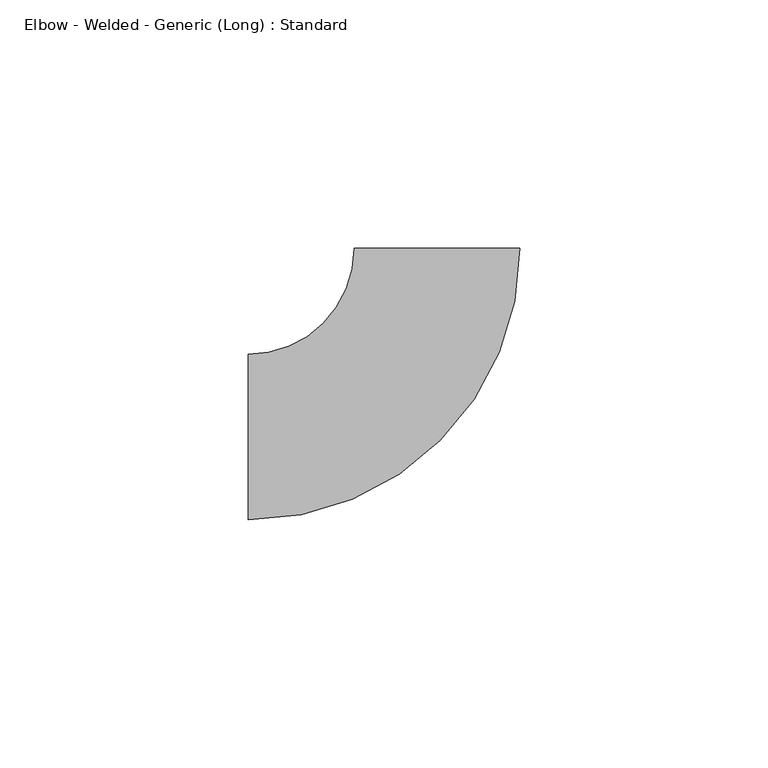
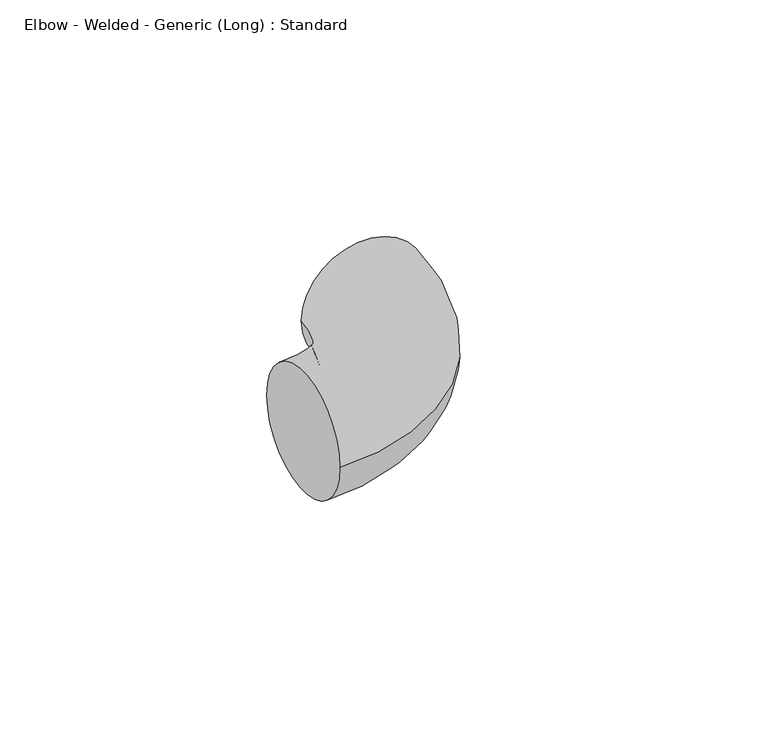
"""IFC4 building model written with IfcOpenShell, lengths in millimetres: pipe fitting geometry, Elbow - Welded - Generic (Long) : Standard."""

from ifc_helpers import new_model, si_unit, point, frame, origin, place, context, project, spatial, circle_curve, ellipse_curve, trimmed, source, transform, mapped, element, save
from ifc_brep_helpers import plane_surface, revolved_surface, advanced_brep


def elbow_welded_generic_long_standard_c526c2e9(model_context):
    return source(origin(), model_context, "Body", "AdvancedBrep", [
        advanced_brep(
        [(-38.1, -16.66875, 0.0), (-38.1, 16.66875, 0.0), (16.6629032, 38.1025574, 0.0), (-16.6745964, 38.0974417, 0.0)],
        [
            (0, 1, circle_curve(frame((-38.1, 0.0, 0.0), z_axis=(-1.0, 0.0, 0.0), x_axis=(0.0, 1.0, 0.0)), 16.66875)),
            (1, 0, circle_curve(frame((-38.1, 0.0, 0.0), z_axis=(-1.0, 0.0, 0.0), x_axis=(0.0, 1.0, 0.0)), 16.66875)),
            (2, 3, circle_curve(frame((-0.0058466, 38.0999996, 0.0), z_axis=(-0.00015345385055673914, 0.9999999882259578, 0.0), x_axis=(-0.9999999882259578, -0.00015345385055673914, 0.0)), 16.66875)),
            (3, 2, circle_curve(frame((-0.0058466, 38.0999996, 0.0), z_axis=(-0.00015345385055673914, 0.9999999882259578, 0.0), x_axis=(-0.9999999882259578, -0.00015345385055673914, 0.0)), 16.66875)),
            (3, 1, circle_curve(frame((-38.1, 38.0941539, 0.0), z_axis=(0.0, 0.0, -1.0), x_axis=(0.0, -1.0, 0.0)), 21.4254039)),
            (0, 2, circle_curve(frame((-38.1, 38.0941539, 0.0), z_axis=(0.0, 0.0, 1.0), x_axis=(0.0, -1.0, 0.0)), 54.7629039)),
        ],
        [
            plane_surface(frame((-38.1, 0.0, 0.0), z_axis=(-1.0, 0.0, 0.0), x_axis=(0.0, 0.0, 1.0))),
            plane_surface(frame((-0.0058466, 38.0999996, 0.0), z_axis=(-0.00015345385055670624, 0.9999999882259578, 0.0), x_axis=(0.0, 0.0, 1.0))),
            revolved_surface(trimmed(ellipse_curve(frame((-38.1, 0.0, 0.0), z_axis=(-1.0, 0.0, 0.0), x_axis=(0.0, 1.0, 0.0)), 16.66875, 16.66875), [point((-38.1, -16.66875, 0.0))], [point((-38.1, 16.66875, 0.0))], True, "CARTESIAN"), (-38.1, 38.0941539, 0.0), (0.0, 0.0, 1.0)),
            revolved_surface(trimmed(ellipse_curve(frame((-38.1, 0.0, 0.0), z_axis=(-1.0, 0.0, 0.0), x_axis=(0.0, 1.0, 0.0)), 16.66875, 16.66875), [point((-38.1, 16.66875, 0.0))], [point((-38.1, -16.66875, 0.0))], True, "CARTESIAN"), (-38.1, 38.0941539, 0.0), (0.0, 0.0, 1.0)),
        ],
        [
            (0, [[1, 2]]),
            (1, [[3, 4]]),
            (2, [[5, -1, 6, -4]]),
            (3, [[-6, -2, -5, -3]]),
        ],
    ),
    ])


if __name__ == "__main__":
    model = new_model("IFC4")
    model_context = context("Model", 3, world=origin())
    ifc_project = project(units=[si_unit("LENGTHUNIT", "METRE", prefix="MILLI")], contexts=[model_context])
    site = spatial("IfcSite", under=ifc_project)
    building = spatial("IfcBuilding", under=site)
    placement = place(None, origin())
    elbow_welded_generic_long_standard_shape = elbow_welded_generic_long_standard_c526c2e9(model_context)
    element("IfcPipeFitting", 1, ObjectType="Elbow - Welded - Generic (Long) : Standard", at=placement, inside=building, context=model_context, shape_type="MappedRepresentation", body=[
        mapped(elbow_welded_generic_long_standard_shape, transform((0.0, 0.0, 0.0), x_axis=(1.0, 0.0, 0.0), y_axis=(0.0, 1.0, 0.0), z_axis=(0.0, 0.0, 1.0))),
    ])
    save(model, "model.ifc")
